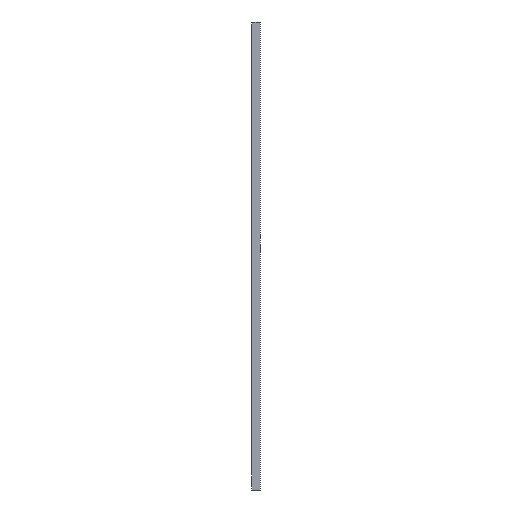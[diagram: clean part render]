
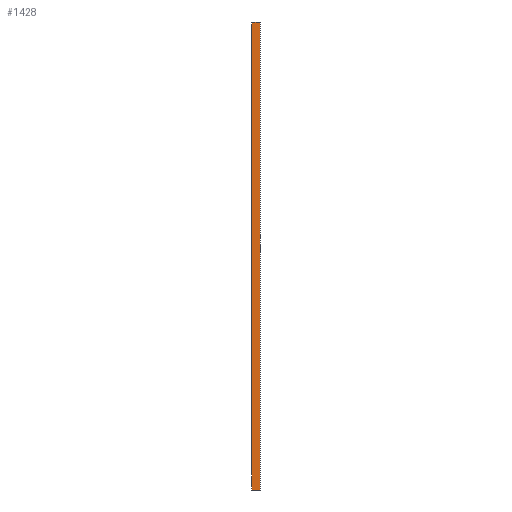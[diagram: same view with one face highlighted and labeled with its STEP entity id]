
A CAD part, left-side view. The second image highlights one B-rep face of the part: STEP entity #1428.
In plain terms, the highlighted planar face has unit normal (-1, 0, 0).
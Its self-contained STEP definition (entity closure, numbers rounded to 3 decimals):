
#27 = LINE ( 'NONE', #121, #1420 ) ;
#36 = LINE ( 'NONE', #169, #1382 ) ;
#45 = VERTEX_POINT ( 'NONE', #279 ) ;
#53 = ORIENTED_EDGE ( 'NONE', *, *, #826, .T. ) ;
#60 = VECTOR ( 'NONE', #803, 1000. ) ;
#90 = CARTESIAN_POINT ( 'NONE',  ( -8., 9.3, 0. ) ) ;
#121 = CARTESIAN_POINT ( 'NONE',  ( -8., 0., 0. ) ) ;
#155 = VECTOR ( 'NONE', #1341, 1000. ) ;
#169 = CARTESIAN_POINT ( 'NONE',  ( -8., 0., 679. ) ) ;
#183 = CARTESIAN_POINT ( 'NONE',  ( -8., 0., 0. ) ) ;
#239 = LINE ( 'NONE', #1199, #1316 ) ;
#279 = CARTESIAN_POINT ( 'NONE',  ( -8., 0., 0. ) ) ;
#292 = VERTEX_POINT ( 'NONE', #90 ) ;
#293 = VERTEX_POINT ( 'NONE', #1406 ) ;
#299 = ORIENTED_EDGE ( 'NONE', *, *, #472, .F. ) ;
#319 = LINE ( 'NONE', #1291, #461 ) ;
#348 = LINE ( 'NONE', #851, #665 ) ;
#356 = DIRECTION ( 'NONE',  ( 0., 0., -1. ) ) ;
#374 = VERTEX_POINT ( 'NONE', #1299 ) ;
#461 = VECTOR ( 'NONE', #916, 1000. ) ;
#467 = DIRECTION ( 'NONE',  ( 0., 0., -1. ) ) ;
#471 = ORIENTED_EDGE ( 'NONE', *, *, #478, .F. ) ;
#472 = EDGE_CURVE ( 'NONE', #757, #1028, #239, .T. ) ;
#475 = DIRECTION ( 'NONE',  ( 0., -1., 0. ) ) ;
#478 = EDGE_CURVE ( 'NONE', #292, #993, #27, .T. ) ;
#518 = CARTESIAN_POINT ( 'NONE',  ( -8., 0., 679. ) ) ;
#525 = EDGE_CURVE ( 'NONE', #1028, #45, #348, .T. ) ;
#538 = EDGE_CURVE ( 'NONE', #1495, #993, #951, .T. ) ;
#617 = EDGE_CURVE ( 'NONE', #757, #293, #36, .T. ) ;
#636 = VECTOR ( 'NONE', #467, 1000. ) ;
#640 = ORIENTED_EDGE ( 'NONE', *, *, #1106, .T. ) ;
#648 = ORIENTED_EDGE ( 'NONE', *, *, #538, .T. ) ;
#665 = VECTOR ( 'NONE', #356, 1000. ) ;
#668 = FACE_OUTER_BOUND ( 'NONE', #1091, .T. ) ;
#680 = ORIENTED_EDGE ( 'NONE', *, *, #693, .F. ) ;
#693 = EDGE_CURVE ( 'NONE', #374, #292, #860, .T. ) ;
#742 = DIRECTION ( 'NONE',  ( 0., 1., 0. ) ) ;
#757 = VERTEX_POINT ( 'NONE', #783 ) ;
#783 = CARTESIAN_POINT ( 'NONE',  ( -8., 3.2, 679. ) ) ;
#788 = LINE ( 'NONE', #1531, #60 ) ;
#794 = PLANE ( 'NONE',  #878 ) ;
#803 = DIRECTION ( 'NONE',  ( 0., -1., 0. ) ) ;
#826 = EDGE_CURVE ( 'NONE', #293, #1495, #319, .T. ) ;
#851 = CARTESIAN_POINT ( 'NONE',  ( -8., 0., 679. ) ) ;
#860 = LINE ( 'NONE', #183, #155 ) ;
#868 = CARTESIAN_POINT ( 'NONE',  ( -8., 12.5, 0. ) ) ;
#878 = AXIS2_PLACEMENT_3D ( 'NONE', #1283, #1026, #1513 ) ;
#916 = DIRECTION ( 'NONE',  ( 0., 1., 0. ) ) ;
#951 = LINE ( 'NONE', #1326, #636 ) ;
#993 = VERTEX_POINT ( 'NONE', #868 ) ;
#1006 = ORIENTED_EDGE ( 'NONE', *, *, #617, .T. ) ;
#1016 = CARTESIAN_POINT ( 'NONE',  ( -8., 12.5, 679. ) ) ;
#1026 = DIRECTION ( 'NONE',  ( -1., 0., 0. ) ) ;
#1028 = VERTEX_POINT ( 'NONE', #518 ) ;
#1053 = ORIENTED_EDGE ( 'NONE', *, *, #525, .F. ) ;
#1091 = EDGE_LOOP ( 'NONE', ( #680, #640, #1053, #299, #1006, #53, #648, #471 ) ) ;
#1106 = EDGE_CURVE ( 'NONE', #374, #45, #788, .T. ) ;
#1199 = CARTESIAN_POINT ( 'NONE',  ( -8., 0., 679. ) ) ;
#1283 = CARTESIAN_POINT ( 'NONE',  ( -8., 0., 679. ) ) ;
#1291 = CARTESIAN_POINT ( 'NONE',  ( -8., 12.5, 679. ) ) ;
#1299 = CARTESIAN_POINT ( 'NONE',  ( -8., 3.2, 0. ) ) ;
#1316 = VECTOR ( 'NONE', #475, 1000. ) ;
#1326 = CARTESIAN_POINT ( 'NONE',  ( -8., 12.5, 679. ) ) ;
#1341 = DIRECTION ( 'NONE',  ( 0., 1., 0. ) ) ;
#1382 = VECTOR ( 'NONE', #742, 1000. ) ;
#1406 = CARTESIAN_POINT ( 'NONE',  ( -8., 9.3, 679. ) ) ;
#1420 = VECTOR ( 'NONE', #1455, 1000. ) ;
#1428 = ADVANCED_FACE ( 'NONE', ( #668 ), #794, .T. ) ;
#1455 = DIRECTION ( 'NONE',  ( 0., 1., 0. ) ) ;
#1495 = VERTEX_POINT ( 'NONE', #1016 ) ;
#1513 = DIRECTION ( 'NONE',  ( 0., 0., 1. ) ) ;
#1531 = CARTESIAN_POINT ( 'NONE',  ( -8., 0., 0. ) ) ;
